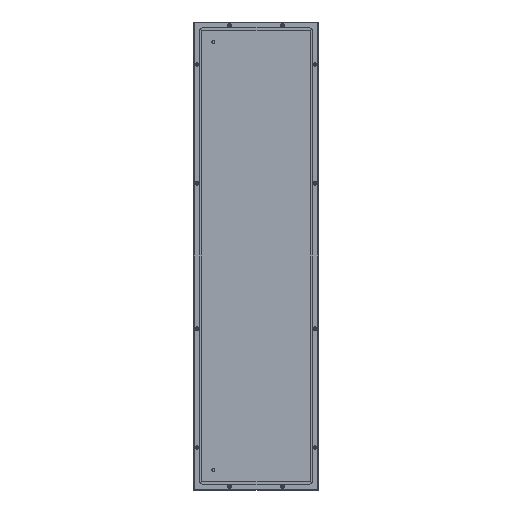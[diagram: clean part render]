
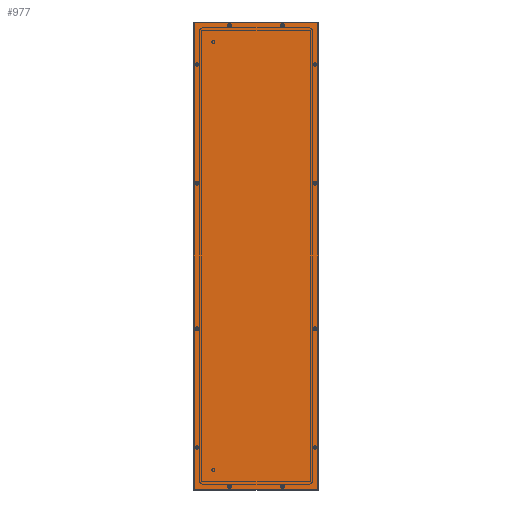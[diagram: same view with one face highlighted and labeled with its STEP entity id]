
A CAD part, left-side view. The second image highlights one B-rep face of the part: STEP entity #977.
In plain terms, the highlighted planar face has unit normal (-1, 0, 0) as drawn and (1, 0, 0) by its records, which use the part's own axes.
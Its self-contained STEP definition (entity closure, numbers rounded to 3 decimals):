
#977=ADVANCED_FACE('',(#2066,#2068,#2070,#2072,#2074,#2076,#2078,#2080,#2082,#2084,
#2086,#2088,#2090),#2092,.T.);
#2066=FACE_BOUND('',#2067,.T.);
#2067=EDGE_LOOP('',(#3903,#3904,#3905,#3906));
#2068=FACE_BOUND('',#2069,.T.);
#2069=EDGE_LOOP('',(#3907));
#2070=FACE_BOUND('',#2071,.T.);
#2071=EDGE_LOOP('',(#3908));
#2072=FACE_BOUND('',#2073,.T.);
#2073=EDGE_LOOP('',(#3909));
#2074=FACE_BOUND('',#2075,.T.);
#2075=EDGE_LOOP('',(#3910));
#2076=FACE_BOUND('',#2077,.T.);
#2077=EDGE_LOOP('',(#3911));
#2078=FACE_BOUND('',#2079,.T.);
#2079=EDGE_LOOP('',(#3912));
#2080=FACE_BOUND('',#2081,.T.);
#2081=EDGE_LOOP('',(#3913));
#2082=FACE_BOUND('',#2083,.T.);
#2083=EDGE_LOOP('',(#3914));
#2084=FACE_BOUND('',#2085,.T.);
#2085=EDGE_LOOP('',(#3915));
#2086=FACE_BOUND('',#2087,.T.);
#2087=EDGE_LOOP('',(#3916));
#2088=FACE_BOUND('',#2089,.T.);
#2089=EDGE_LOOP('',(#3917));
#2090=FACE_BOUND('',#2091,.T.);
#2091=EDGE_LOOP('',(#3918));
#2092=PLANE('',#2093);
#2093=AXIS2_PLACEMENT_3D('',#2094,#2095,#2096);
#2094=CARTESIAN_POINT('',(1.5,0.,0.));
#2095=DIRECTION('',(1.,0.,0.));
#2096=DIRECTION('',(0.,1.,0.));
#3903=ORIENTED_EDGE('',*,*,#4276,.T.);
#3904=ORIENTED_EDGE('',*,*,#4282,.T.);
#3905=ORIENTED_EDGE('',*,*,#4280,.T.);
#3906=ORIENTED_EDGE('',*,*,#4278,.T.);
#3907=ORIENTED_EDGE('',*,*,#4295,.T.);
#3908=ORIENTED_EDGE('',*,*,#4296,.T.);
#3909=ORIENTED_EDGE('',*,*,#4297,.T.);
#3910=ORIENTED_EDGE('',*,*,#4298,.T.);
#3911=ORIENTED_EDGE('',*,*,#4299,.T.);
#3912=ORIENTED_EDGE('',*,*,#4300,.T.);
#3913=ORIENTED_EDGE('',*,*,#4301,.T.);
#3914=ORIENTED_EDGE('',*,*,#4302,.T.);
#3915=ORIENTED_EDGE('',*,*,#4303,.T.);
#3916=ORIENTED_EDGE('',*,*,#4304,.T.);
#3917=ORIENTED_EDGE('',*,*,#4305,.T.);
#3918=ORIENTED_EDGE('',*,*,#4306,.T.);
#4276=EDGE_CURVE('',#4709,#4707,#4710,.T.);
#4278=EDGE_CURVE('',#4712,#4709,#4713,.T.);
#4280=EDGE_CURVE('',#4715,#4712,#4716,.T.);
#4282=EDGE_CURVE('',#4707,#4715,#4718,.T.);
#4295=EDGE_CURVE('',#4743,#4743,#4744,.F.);
#4296=EDGE_CURVE('',#4745,#4745,#4746,.F.);
#4297=EDGE_CURVE('',#4747,#4747,#4748,.F.);
#4298=EDGE_CURVE('',#4749,#4749,#4750,.F.);
#4299=EDGE_CURVE('',#4751,#4751,#4752,.F.);
#4300=EDGE_CURVE('',#4753,#4753,#4754,.F.);
#4301=EDGE_CURVE('',#4755,#4755,#4756,.F.);
#4302=EDGE_CURVE('',#4757,#4757,#4758,.F.);
#4303=EDGE_CURVE('',#4759,#4759,#4760,.F.);
#4304=EDGE_CURVE('',#4761,#4761,#4762,.F.);
#4305=EDGE_CURVE('',#4763,#4763,#4764,.F.);
#4306=EDGE_CURVE('',#4765,#4765,#4766,.T.);
#4707=VERTEX_POINT('',#5699);
#4709=VERTEX_POINT('',#5704);
#4710=LINE('',#5705,#5706);
#4712=VERTEX_POINT('',#5712);
#4713=LINE('',#5713,#5714);
#4715=VERTEX_POINT('',#5720);
#4716=LINE('',#5721,#5722);
#4718=LINE('',#5728,#5729);
#4743=VERTEX_POINT('',#5791);
#4744=CIRCLE('',#5792,6.954);
#4745=VERTEX_POINT('',#5796);
#4746=CIRCLE('',#5797,6.954);
#4747=VERTEX_POINT('',#5801);
#4748=CIRCLE('',#5802,6.954);
#4749=VERTEX_POINT('',#5806);
#4750=CIRCLE('',#5807,6.954);
#4751=VERTEX_POINT('',#5811);
#4752=CIRCLE('',#5812,6.954);
#4753=VERTEX_POINT('',#5816);
#4754=CIRCLE('',#5817,6.954);
#4755=VERTEX_POINT('',#5821);
#4756=CIRCLE('',#5822,6.954);
#4757=VERTEX_POINT('',#5826);
#4758=CIRCLE('',#5827,6.954);
#4759=VERTEX_POINT('',#5831);
#4760=CIRCLE('',#5832,6.954);
#4761=VERTEX_POINT('',#5836);
#4762=CIRCLE('',#5837,6.954);
#4763=VERTEX_POINT('',#5841);
#4764=CIRCLE('',#5842,6.954);
#4765=VERTEX_POINT('',#5846);
#4766=CIRCLE('',#5847,6.954);
#5699=CARTESIAN_POINT('',(1.5,-233.7,-882.7));
#5704=CARTESIAN_POINT('',(1.5,-233.7,882.7));
#5705=CARTESIAN_POINT('',(1.5,-233.7,882.7));
#5706=VECTOR('',#5707,1.);
#5707=DIRECTION('',(0.,0.,-1.));
#5712=CARTESIAN_POINT('',(1.5,233.7,882.7));
#5713=CARTESIAN_POINT('',(1.5,233.7,882.7));
#5714=VECTOR('',#5715,1.);
#5715=DIRECTION('',(0.,-1.,0.));
#5720=CARTESIAN_POINT('',(1.5,233.7,-882.7));
#5721=CARTESIAN_POINT('',(1.5,233.7,-882.7));
#5722=VECTOR('',#5723,1.);
#5723=DIRECTION('',(0.,0.,1.));
#5728=CARTESIAN_POINT('',(1.5,-233.7,-882.7));
#5729=VECTOR('',#5730,1.);
#5730=DIRECTION('',(0.,1.,0.));
#5791=CARTESIAN_POINT('',(1.5,106.954,873.5));
#5792=AXIS2_PLACEMENT_3D('',#5793,#5794,#5795);
#5793=CARTESIAN_POINT('',(1.5,100.,873.5));
#5794=DIRECTION('',(1.,0.,0.));
#5795=DIRECTION('',(0.,1.,0.));
#5796=CARTESIAN_POINT('',(1.5,106.954,-873.5));
#5797=AXIS2_PLACEMENT_3D('',#5798,#5799,#5800);
#5798=CARTESIAN_POINT('',(1.5,100.,-873.5));
#5799=DIRECTION('',(1.,0.,0.));
#5800=DIRECTION('',(0.,1.,0.));
#5801=CARTESIAN_POINT('',(1.5,-93.046,873.5));
#5802=AXIS2_PLACEMENT_3D('',#5803,#5804,#5805);
#5803=CARTESIAN_POINT('',(1.5,-100.,873.5));
#5804=DIRECTION('',(1.,0.,0.));
#5805=DIRECTION('',(0.,1.,0.));
#5806=CARTESIAN_POINT('',(1.5,-93.046,-873.5));
#5807=AXIS2_PLACEMENT_3D('',#5808,#5809,#5810);
#5808=CARTESIAN_POINT('',(1.5,-100.,-873.5));
#5809=DIRECTION('',(1.,0.,0.));
#5810=DIRECTION('',(0.,1.,0.));
#5811=CARTESIAN_POINT('',(1.5,230.454,-275.));
#5812=AXIS2_PLACEMENT_3D('',#5813,#5814,#5815);
#5813=CARTESIAN_POINT('',(1.5,223.5,-275.));
#5814=DIRECTION('',(1.,0.,0.));
#5815=DIRECTION('',(0.,1.,0.));
#5816=CARTESIAN_POINT('',(1.5,230.454,275.));
#5817=AXIS2_PLACEMENT_3D('',#5818,#5819,#5820);
#5818=CARTESIAN_POINT('',(1.5,223.5,275.));
#5819=DIRECTION('',(1.,0.,0.));
#5820=DIRECTION('',(0.,1.,0.));
#5821=CARTESIAN_POINT('',(1.5,-216.546,-275.));
#5822=AXIS2_PLACEMENT_3D('',#5823,#5824,#5825);
#5823=CARTESIAN_POINT('',(1.5,-223.5,-275.));
#5824=DIRECTION('',(1.,0.,0.));
#5825=DIRECTION('',(0.,1.,0.));
#5826=CARTESIAN_POINT('',(1.5,-216.546,275.));
#5827=AXIS2_PLACEMENT_3D('',#5828,#5829,#5830);
#5828=CARTESIAN_POINT('',(1.5,-223.5,275.));
#5829=DIRECTION('',(1.,0.,0.));
#5830=DIRECTION('',(0.,1.,0.));
#5831=CARTESIAN_POINT('',(1.5,230.454,725.));
#5832=AXIS2_PLACEMENT_3D('',#5833,#5834,#5835);
#5833=CARTESIAN_POINT('',(1.5,223.5,725.));
#5834=DIRECTION('',(1.,0.,0.));
#5835=DIRECTION('',(0.,1.,0.));
#5836=CARTESIAN_POINT('',(1.5,230.454,-725.));
#5837=AXIS2_PLACEMENT_3D('',#5838,#5839,#5840);
#5838=CARTESIAN_POINT('',(1.5,223.5,-725.));
#5839=DIRECTION('',(1.,0.,0.));
#5840=DIRECTION('',(0.,1.,0.));
#5841=CARTESIAN_POINT('',(1.5,-216.546,-725.));
#5842=AXIS2_PLACEMENT_3D('',#5843,#5844,#5845);
#5843=CARTESIAN_POINT('',(1.5,-223.5,-725.));
#5844=DIRECTION('',(1.,0.,0.));
#5845=DIRECTION('',(0.,1.,0.));
#5846=CARTESIAN_POINT('',(1.5,-216.546,725.));
#5847=AXIS2_PLACEMENT_3D('',#5848,#5849,#5850);
#5848=CARTESIAN_POINT('',(1.5,-223.5,725.));
#5849=DIRECTION('',(-1.,0.,0.));
#5850=DIRECTION('',(0.,1.,0.));
